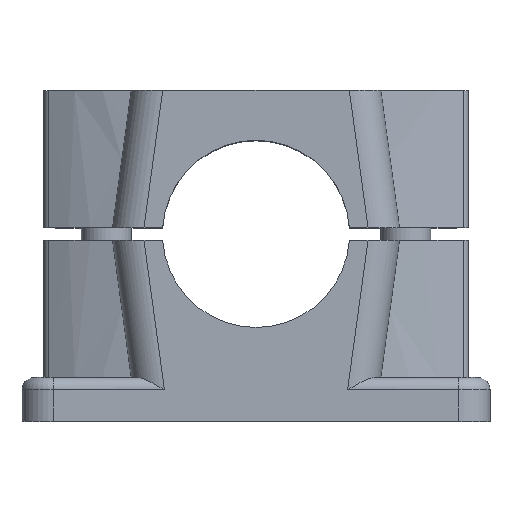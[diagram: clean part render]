
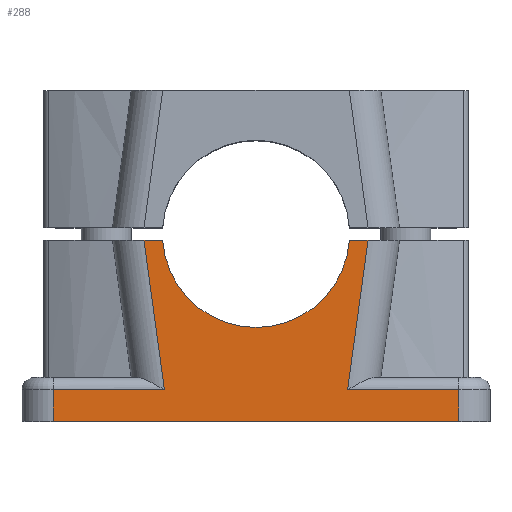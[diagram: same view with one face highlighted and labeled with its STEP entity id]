
A CAD part, top view. The second image highlights one B-rep face of the part: STEP entity #288.
In plain terms, the highlighted planar face has unit normal (0, 0, 1).
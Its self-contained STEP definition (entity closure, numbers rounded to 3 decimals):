
#288 = ADVANCED_FACE( '', ( #772 ), #773, .T. );
#772 = FACE_OUTER_BOUND( '', #1264, .T. );
#773 = PLANE( '', #1265 );
#1264 = EDGE_LOOP( '', ( #3000, #3001, #3002, #3003, #3004, #3005, #3006, #3007, #3008, #3009 ) );
#1265 = AXIS2_PLACEMENT_3D( '', #3010, #3011, #3012 );
#3000 = ORIENTED_EDGE( '', *, *, #3452, .T. );
#3001 = ORIENTED_EDGE( '', *, *, #3402, .F. );
#3002 = ORIENTED_EDGE( '', *, *, #3606, .T. );
#3003 = ORIENTED_EDGE( '', *, *, #3576, .F. );
#3004 = ORIENTED_EDGE( '', *, *, #3598, .T. );
#3005 = ORIENTED_EDGE( '', *, *, #3311, .T. );
#3006 = ORIENTED_EDGE( '', *, *, #3362, .F. );
#3007 = ORIENTED_EDGE( '', *, *, #3295, .F. );
#3008 = ORIENTED_EDGE( '', *, *, #3064, .T. );
#3009 = ORIENTED_EDGE( '', *, *, #3607, .F. );
#3010 = CARTESIAN_POINT( '', ( 0., 0., 25. ) );
#3011 = DIRECTION( '', ( 0., 0., 1. ) );
#3012 = DIRECTION( '', ( 1., 0., 0. ) );
#3064 = EDGE_CURVE( '', #3633, #3631, #3634, .T. );
#3295 = EDGE_CURVE( '', #3633, #4041, #4042, .T. );
#3311 = EDGE_CURVE( '', #4062, #4065, #4067, .T. );
#3362 = EDGE_CURVE( '', #4041, #4065, #4157, .T. );
#3402 = EDGE_CURVE( '', #4223, #4219, #4225, .T. );
#3452 = EDGE_CURVE( '', #4312, #4219, #4313, .T. );
#3576 = EDGE_CURVE( '', #4500, #4498, #4502, .T. );
#3598 = EDGE_CURVE( '', #4500, #4062, #4533, .T. );
#3606 = EDGE_CURVE( '', #4223, #4498, #4542, .T. );
#3607 = EDGE_CURVE( '', #4312, #3631, #4543, .F. );
#3631 = VERTEX_POINT( '', #4602 );
#3633 = VERTEX_POINT( '', #4619 );
#3634 = LINE( '', #4620, #4621 );
#4041 = VERTEX_POINT( '', #5189 );
#4042 = LINE( '', #5190, #5191 );
#4062 = VERTEX_POINT( '', #5213 );
#4065 = VERTEX_POINT( '', #5216 );
#4067 = LINE( '', #5218, #5219 );
#4157 = LINE( '', #5335, #5336 );
#4219 = VERTEX_POINT( '', #5418 );
#4223 = VERTEX_POINT( '', #5423 );
#4225 = CIRCLE( '', #5426, 15. );
#4312 = VERTEX_POINT( '', #5550 );
#4313 = LINE( '', #5551, #5552 );
#4498 = VERTEX_POINT( '', #5811 );
#4500 = VERTEX_POINT( '', #5813 );
#4502 = LINE( '', #5830, #5831 );
#4533 = LINE( '', #5876, #5877 );
#4542 = LINE( '', #5890, #5891 );
#4543 = LINE( '', #5892, #5893 );
#4602 = CARTESIAN_POINT( '', ( 14.681, -25., 25. ) );
#4619 = CARTESIAN_POINT( '', ( 32.5, -25., 25. ) );
#4620 = CARTESIAN_POINT( '', ( 32.5, -25., 25. ) );
#4621 = VECTOR( '', #5911, 1000. );
#5189 = CARTESIAN_POINT( '', ( 32.5, -30., 25. ) );
#5190 = CARTESIAN_POINT( '', ( 32.5, -25., 25. ) );
#5191 = VECTOR( '', #6280, 1000. );
#5213 = CARTESIAN_POINT( '', ( -32.5, -25., 25. ) );
#5216 = CARTESIAN_POINT( '', ( -32.5, -30., 25. ) );
#5218 = CARTESIAN_POINT( '', ( -32.5, -25., 25. ) );
#5219 = VECTOR( '', #6322, 1000. );
#5335 = CARTESIAN_POINT( '', ( 32.5, -30., 25. ) );
#5336 = VECTOR( '', #6421, 1000. );
#5418 = CARTESIAN_POINT( '', ( 14.967, -1., 25. ) );
#5423 = CARTESIAN_POINT( '', ( -14.967, -1., 25. ) );
#5426 = AXIS2_PLACEMENT_3D( '', #6495, #6496, #6497 );
#5550 = CARTESIAN_POINT( '', ( 17.954, -1., 25. ) );
#5551 = CARTESIAN_POINT( '', ( 0., -1., 25. ) );
#5552 = VECTOR( '', #6571, 1000. );
#5811 = CARTESIAN_POINT( '', ( -17.954, -1., 25. ) );
#5813 = CARTESIAN_POINT( '', ( -14.681, -25., 25. ) );
#5830 = CARTESIAN_POINT( '', ( -14.669, -25.086, 25. ) );
#5831 = VECTOR( '', #6790, 1000. );
#5876 = CARTESIAN_POINT( '', ( 32.5, -25., 25. ) );
#5877 = VECTOR( '', #6826, 1000. );
#5890 = CARTESIAN_POINT( '', ( 0., -1., 25. ) );
#5891 = VECTOR( '', #6840, 1000. );
#5892 = CARTESIAN_POINT( '', ( 14.669, -25.086, 25. ) );
#5893 = VECTOR( '', #6841, 1000. );
#5911 = DIRECTION( '', ( -1., 0., 0. ) );
#6280 = DIRECTION( '', ( 0., -1., 0. ) );
#6322 = DIRECTION( '', ( 0., -1., 0. ) );
#6421 = DIRECTION( '', ( -1., 0., 0. ) );
#6495 = CARTESIAN_POINT( '', ( 0., 0., 25. ) );
#6496 = DIRECTION( '', ( 0., 0., 1. ) );
#6497 = DIRECTION( '', ( 1., 0., 0. ) );
#6571 = DIRECTION( '', ( -1., 0., 0. ) );
#6790 = DIRECTION( '', ( -0.135, 0.991, 0. ) );
#6826 = DIRECTION( '', ( -1., 0., 0. ) );
#6840 = DIRECTION( '', ( -1., 0., 0. ) );
#6841 = DIRECTION( '', ( 0.135, 0.991, 0. ) );
